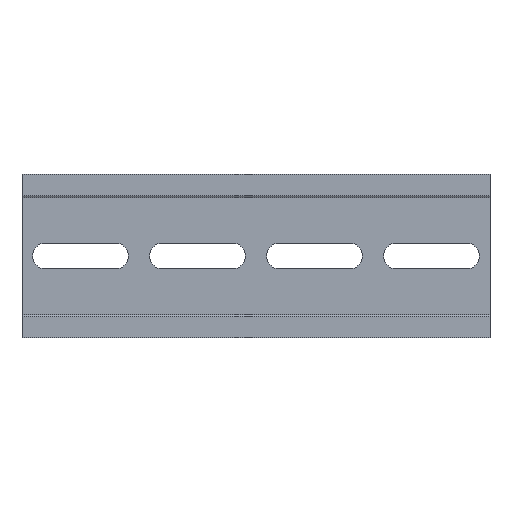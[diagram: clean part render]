
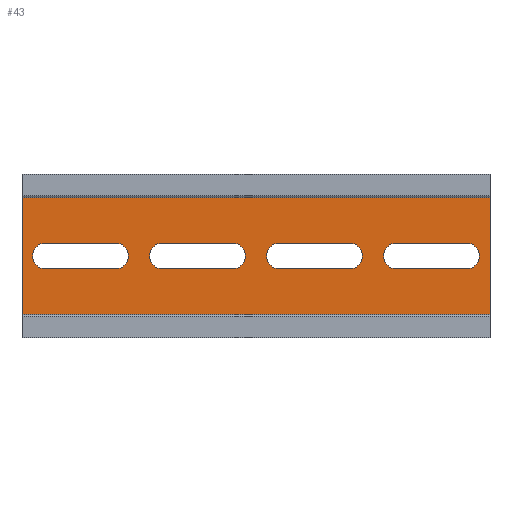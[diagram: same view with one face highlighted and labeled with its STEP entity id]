
A CAD part, front view. The second image highlights one B-rep face of the part: STEP entity #43.
In plain terms, the highlighted planar face has unit normal (0, -1, 0).
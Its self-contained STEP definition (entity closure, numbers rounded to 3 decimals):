
#43=ADVANCED_FACE('',(#107,#108,#109,#110,#111),#106,.T.);
#106=PLANE('',#462);
#107=FACE_OUTER_BOUND('',#463,.T.);
#108=FACE_BOUND('',#464,.T.);
#109=FACE_BOUND('',#465,.T.);
#110=FACE_BOUND('',#466,.T.);
#111=FACE_BOUND('',#467,.T.);
#459=CARTESIAN_POINT('',(-10.,-1.5,15.));
#460=DIRECTION('',(0.,-1.,0.));
#461=DIRECTION('',(0.,0.,-1.));
#462=AXIS2_PLACEMENT_3D('',#459,#460,#461);
#463=EDGE_LOOP('',(#644,#645,#646,#647));
#464=EDGE_LOOP('',(#648,#649,#650,#651));
#465=EDGE_LOOP('',(#652,#653,#654,#655));
#466=EDGE_LOOP('',(#656,#657,#658,#659));
#467=EDGE_LOOP('',(#660,#661,#662,#663));
#644=ORIENTED_EDGE('',*,*,#847,.F.);
#645=ORIENTED_EDGE('',*,*,#846,.F.);
#646=ORIENTED_EDGE('',*,*,#848,.T.);
#647=ORIENTED_EDGE('',*,*,#849,.T.);
#648=ORIENTED_EDGE('',*,*,#850,.F.);
#649=ORIENTED_EDGE('',*,*,#851,.F.);
#650=ORIENTED_EDGE('',*,*,#852,.F.);
#651=ORIENTED_EDGE('',*,*,#853,.F.);
#652=ORIENTED_EDGE('',*,*,#854,.F.);
#653=ORIENTED_EDGE('',*,*,#855,.F.);
#654=ORIENTED_EDGE('',*,*,#856,.F.);
#655=ORIENTED_EDGE('',*,*,#857,.F.);
#656=ORIENTED_EDGE('',*,*,#858,.F.);
#657=ORIENTED_EDGE('',*,*,#859,.F.);
#658=ORIENTED_EDGE('',*,*,#860,.F.);
#659=ORIENTED_EDGE('',*,*,#861,.F.);
#660=ORIENTED_EDGE('',*,*,#862,.F.);
#661=ORIENTED_EDGE('',*,*,#838,.F.);
#662=ORIENTED_EDGE('',*,*,#842,.F.);
#663=ORIENTED_EDGE('',*,*,#863,.F.);
#838=EDGE_CURVE('',#946,#953,#954,.T.);
#842=EDGE_CURVE('',#973,#946,#980,.T.);
#846=EDGE_CURVE('',#1001,#987,#1008,.T.);
#847=EDGE_CURVE('',#987,#1014,#1015,.T.);
#848=EDGE_CURVE('',#1001,#1021,#1022,.T.);
#849=EDGE_CURVE('',#1021,#1014,#1028,.T.);
#850=EDGE_CURVE('',#1034,#1035,#1036,.T.);
#851=EDGE_CURVE('',#1042,#1034,#1043,.T.);
#852=EDGE_CURVE('',#1049,#1042,#1050,.T.);
#853=EDGE_CURVE('',#1035,#1049,#1056,.T.);
#854=EDGE_CURVE('',#1062,#1063,#1064,.T.);
#855=EDGE_CURVE('',#1070,#1062,#1071,.T.);
#856=EDGE_CURVE('',#1077,#1070,#1078,.T.);
#857=EDGE_CURVE('',#1063,#1077,#1084,.T.);
#858=EDGE_CURVE('',#1090,#1091,#1092,.T.);
#859=EDGE_CURVE('',#1098,#1090,#1099,.T.);
#860=EDGE_CURVE('',#1105,#1098,#1106,.T.);
#861=EDGE_CURVE('',#1091,#1105,#1112,.T.);
#862=EDGE_CURVE('',#953,#1118,#1119,.T.);
#863=EDGE_CURVE('',#1118,#973,#1125,.T.);
#946=VERTEX_POINT('',#1623);
#953=VERTEX_POINT('',#1627);
#954=LINE('',#1628,#1629);
#973=VERTEX_POINT('',#1639);
#980=CIRCLE('',#1646,2.75);
#987=VERTEX_POINT('',#1648);
#1001=VERTEX_POINT('',#1656);
#1008=LINE('',#1660,#1661);
#1014=VERTEX_POINT('',#1663);
#1015=LINE('',#1664,#1665);
#1021=VERTEX_POINT('',#1667);
#1022=LINE('',#1668,#1669);
#1028=LINE('',#1671,#1672);
#1034=VERTEX_POINT('',#1674);
#1035=VERTEX_POINT('',#1675);
#1036=LINE('',#1676,#1677);
#1042=VERTEX_POINT('',#1679);
#1043=CIRCLE('',#1683,2.75);
#1049=VERTEX_POINT('',#1684);
#1050=LINE('',#1685,#1686);
#1056=CIRCLE('',#1691,2.75);
#1062=VERTEX_POINT('',#1692);
#1063=VERTEX_POINT('',#1693);
#1064=LINE('',#1694,#1695);
#1070=VERTEX_POINT('',#1697);
#1071=CIRCLE('',#1701,2.75);
#1077=VERTEX_POINT('',#1702);
#1078=LINE('',#1703,#1704);
#1084=CIRCLE('',#1709,2.75);
#1090=VERTEX_POINT('',#1710);
#1091=VERTEX_POINT('',#1711);
#1092=LINE('',#1712,#1713);
#1098=VERTEX_POINT('',#1715);
#1099=CIRCLE('',#1719,2.75);
#1105=VERTEX_POINT('',#1720);
#1106=LINE('',#1721,#1722);
#1112=CIRCLE('',#1727,2.75);
#1118=VERTEX_POINT('',#1728);
#1119=CIRCLE('',#1732,2.75);
#1125=LINE('',#1733,#1734);
#1623=CARTESIAN_POINT('',(55.,-1.5,-2.75));
#1627=CARTESIAN_POINT('',(70.,-1.5,-2.75));
#1628=CARTESIAN_POINT('',(55.,-1.5,-2.75));
#1629=VECTOR('',#1630,15.);
#1630=DIRECTION('',(1.,0.,0.));
#1639=CARTESIAN_POINT('',(55.,-1.5,2.75));
#1643=CARTESIAN_POINT('',(55.,-1.5,0.));
#1644=DIRECTION('',(0.,-1.,0.));
#1645=DIRECTION('',(0.,0.,1.));
#1646=AXIS2_PLACEMENT_3D('',#1643,#1644,#1645);
#1648=CARTESIAN_POINT('',(0.,-1.5,-12.5));
#1656=CARTESIAN_POINT('',(100.,-1.5,-12.5));
#1660=CARTESIAN_POINT('',(100.,-1.5,-12.5));
#1661=VECTOR('',#1662,100.);
#1662=DIRECTION('',(-1.,0.,0.));
#1663=CARTESIAN_POINT('',(0.,-1.5,12.5));
#1664=CARTESIAN_POINT('',(0.,-1.5,-12.5));
#1665=VECTOR('',#1666,25.);
#1666=DIRECTION('',(0.,0.,1.));
#1667=CARTESIAN_POINT('',(100.,-1.5,12.5));
#1668=CARTESIAN_POINT('',(100.,-1.5,-12.5));
#1669=VECTOR('',#1670,25.);
#1670=DIRECTION('',(0.,0.,1.));
#1671=CARTESIAN_POINT('',(100.,-1.5,12.5));
#1672=VECTOR('',#1673,100.);
#1673=DIRECTION('',(-1.,0.,0.));
#1674=CARTESIAN_POINT('',(80.,-1.5,-2.75));
#1675=CARTESIAN_POINT('',(95.,-1.5,-2.75));
#1676=CARTESIAN_POINT('',(80.,-1.5,-2.75));
#1677=VECTOR('',#1678,15.);
#1678=DIRECTION('',(1.,0.,0.));
#1679=CARTESIAN_POINT('',(80.,-1.5,2.75));
#1680=CARTESIAN_POINT('',(80.,-1.5,0.));
#1681=DIRECTION('',(0.,-1.,0.));
#1682=DIRECTION('',(0.,0.,1.));
#1683=AXIS2_PLACEMENT_3D('',#1680,#1681,#1682);
#1684=CARTESIAN_POINT('',(95.,-1.5,2.75));
#1685=CARTESIAN_POINT('',(95.,-1.5,2.75));
#1686=VECTOR('',#1687,15.);
#1687=DIRECTION('',(-1.,0.,0.));
#1688=CARTESIAN_POINT('',(95.,-1.5,0.));
#1689=DIRECTION('',(0.,-1.,0.));
#1690=DIRECTION('',(0.,0.,1.));
#1691=AXIS2_PLACEMENT_3D('',#1688,#1689,#1690);
#1692=CARTESIAN_POINT('',(30.,-1.5,-2.75));
#1693=CARTESIAN_POINT('',(45.,-1.5,-2.75));
#1694=CARTESIAN_POINT('',(30.,-1.5,-2.75));
#1695=VECTOR('',#1696,15.);
#1696=DIRECTION('',(1.,0.,0.));
#1697=CARTESIAN_POINT('',(30.,-1.5,2.75));
#1698=CARTESIAN_POINT('',(30.,-1.5,0.));
#1699=DIRECTION('',(0.,-1.,0.));
#1700=DIRECTION('',(0.,0.,1.));
#1701=AXIS2_PLACEMENT_3D('',#1698,#1699,#1700);
#1702=CARTESIAN_POINT('',(45.,-1.5,2.75));
#1703=CARTESIAN_POINT('',(45.,-1.5,2.75));
#1704=VECTOR('',#1705,15.);
#1705=DIRECTION('',(-1.,0.,0.));
#1706=CARTESIAN_POINT('',(45.,-1.5,0.));
#1707=DIRECTION('',(0.,-1.,0.));
#1708=DIRECTION('',(0.,0.,1.));
#1709=AXIS2_PLACEMENT_3D('',#1706,#1707,#1708);
#1710=CARTESIAN_POINT('',(5.,-1.5,-2.75));
#1711=CARTESIAN_POINT('',(20.,-1.5,-2.75));
#1712=CARTESIAN_POINT('',(5.,-1.5,-2.75));
#1713=VECTOR('',#1714,15.);
#1714=DIRECTION('',(1.,0.,0.));
#1715=CARTESIAN_POINT('',(5.,-1.5,2.75));
#1716=CARTESIAN_POINT('',(5.,-1.5,0.));
#1717=DIRECTION('',(0.,-1.,0.));
#1718=DIRECTION('',(0.,0.,1.));
#1719=AXIS2_PLACEMENT_3D('',#1716,#1717,#1718);
#1720=CARTESIAN_POINT('',(20.,-1.5,2.75));
#1721=CARTESIAN_POINT('',(20.,-1.5,2.75));
#1722=VECTOR('',#1723,15.);
#1723=DIRECTION('',(-1.,0.,0.));
#1724=CARTESIAN_POINT('',(20.,-1.5,0.));
#1725=DIRECTION('',(0.,-1.,0.));
#1726=DIRECTION('',(0.,0.,1.));
#1727=AXIS2_PLACEMENT_3D('',#1724,#1725,#1726);
#1728=CARTESIAN_POINT('',(70.,-1.5,2.75));
#1729=CARTESIAN_POINT('',(70.,-1.5,0.));
#1730=DIRECTION('',(0.,-1.,0.));
#1731=DIRECTION('',(0.,0.,1.));
#1732=AXIS2_PLACEMENT_3D('',#1729,#1730,#1731);
#1733=CARTESIAN_POINT('',(70.,-1.5,2.75));
#1734=VECTOR('',#1735,15.);
#1735=DIRECTION('',(-1.,0.,0.));
